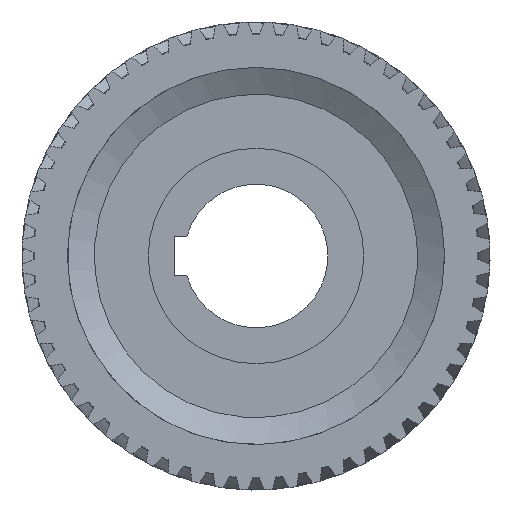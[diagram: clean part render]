
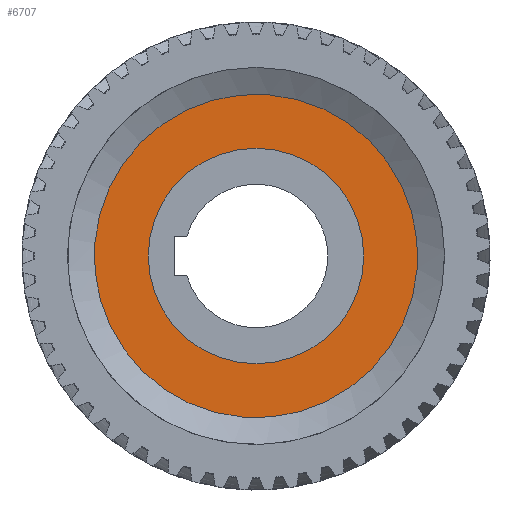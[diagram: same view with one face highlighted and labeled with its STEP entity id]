
A CAD part, left-side view. The second image highlights one B-rep face of the part: STEP entity #6707.
In plain terms, the highlighted planar face has unit normal (-1, 0, 0).
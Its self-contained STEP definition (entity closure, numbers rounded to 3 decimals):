
#608=FACE_BOUND('',#1509,.T.);
#617=PLANE('',#7594);
#1128=FACE_OUTER_BOUND('',#1508,.T.);
#1508=EDGE_LOOP('',(#6329));
#1509=EDGE_LOOP('',(#6330));
#1542=CIRCLE('',#6732,90.);
#1546=CIRCLE('',#6737,60.);
#2274=VERTEX_POINT('',#9354);
#2278=VERTEX_POINT('',#9364);
#3013=EDGE_CURVE('',#2274,#2274,#1542,.T.);
#3019=EDGE_CURVE('',#2278,#2278,#1546,.T.);
#6329=ORIENTED_EDGE('',*,*,#3013,.T.);
#6330=ORIENTED_EDGE('',*,*,#3019,.T.);
#6707=ADVANCED_FACE('',(#1128,#608),#617,.T.);
#6732=AXIS2_PLACEMENT_3D('',#9355,#7606,#7607);
#6737=AXIS2_PLACEMENT_3D('',#9366,#7618,#7619);
#7594=AXIS2_PLACEMENT_3D('',#148453,#9344,#9345);
#7606=DIRECTION('center_axis',(-1.,0.,0.));
#7607=DIRECTION('ref_axis',(0.,0.,-1.));
#7618=DIRECTION('center_axis',(1.,0.,0.));
#7619=DIRECTION('ref_axis',(0.,0.,
-1.));
#9344=DIRECTION('center_axis',(-1.,0.,0.));
#9345=DIRECTION('ref_axis',(0.,0.,1.));
#9354=CARTESIAN_POINT('',(15.,52.3,73.244));
#9355=CARTESIAN_POINT('Origin',(15.,0.,0.));
#9364=CARTESIAN_POINT('',(15.,0.,60.));
#9366=CARTESIAN_POINT('Origin',(15.,0.,0.));
#148453=CARTESIAN_POINT('Origin',(15.,90.001,0.));
